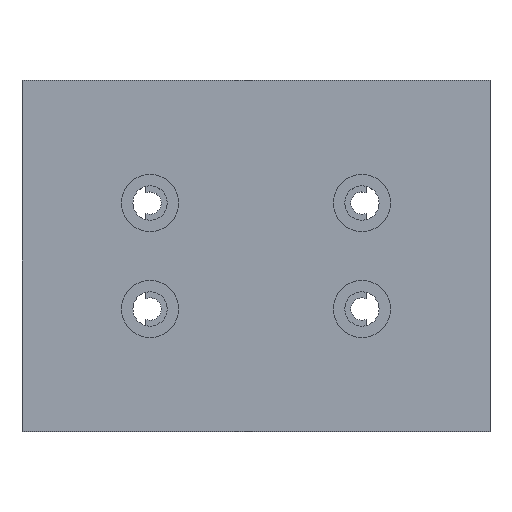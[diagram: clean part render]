
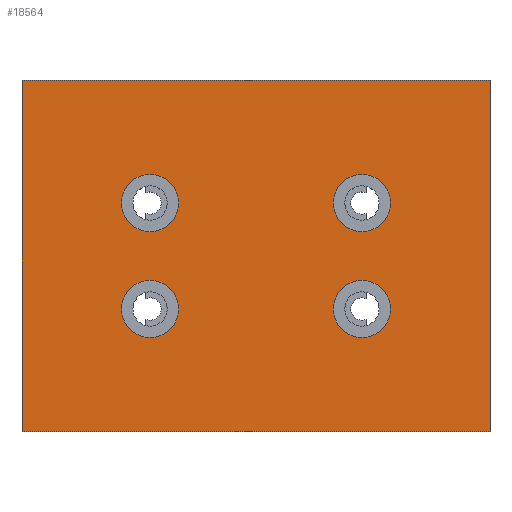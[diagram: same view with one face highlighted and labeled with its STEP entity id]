
A CAD part, top view. The second image highlights one B-rep face of the part: STEP entity #18564.
In plain terms, the highlighted planar face has unit normal (0, 0, 1).
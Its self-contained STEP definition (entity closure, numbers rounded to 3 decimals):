
#708 = CARTESIAN_POINT ( 'NONE',  ( -8.233, -2.781, 1.6 ) ) ;
#2494 = ORIENTED_EDGE ( 'NONE', *, *, #31999, .T. ) ;
#2678 = LINE ( 'NONE', #25647, #15759 ) ;
#3643 = VERTEX_POINT ( 'NONE', #57030 ) ;
#3779 = ORIENTED_EDGE ( 'NONE', *, *, #37785, .T. ) ;
#3899 = CARTESIAN_POINT ( 'NONE',  ( 3.267, 20.219, 1.6 ) ) ;
#3900 = DIRECTION ( 'NONE',  ( 1., 0., 0. ) ) ;
#4657 = VERTEX_POINT ( 'NONE', #50806 ) ;
#5515 = EDGE_CURVE ( 'NONE', #3643, #8435, #2678, .T. ) ;
#7809 = DIRECTION ( 'NONE',  ( 0., 1., 0. ) ) ;
#8435 = VERTEX_POINT ( 'NONE', #31478 ) ;
#8441 = CARTESIAN_POINT ( 'NONE',  ( -8.233, 20.219, 1.6 ) ) ;
#8464 = ORIENTED_EDGE ( 'NONE', *, *, #26342, .F. ) ;
#8549 = CIRCLE ( 'NONE', #62570, 3.1 ) ;
#9158 = VERTEX_POINT ( 'NONE', #62981 ) ;
#9222 = VERTEX_POINT ( 'NONE', #43825 ) ;
#9534 = EDGE_CURVE ( 'NONE', #54559, #9222, #56578, .T. ) ;
#9612 = FACE_BOUND ( 'NONE', #18133, .T. ) ;
#10450 = CARTESIAN_POINT ( 'NONE',  ( 0.167, 20.219, 1.6 ) ) ;
#10500 = AXIS2_PLACEMENT_3D ( 'NONE', #23468, #33349, #3900 ) ;
#11165 = EDGE_CURVE ( 'NONE', #8435, #49415, #17795, .T. ) ;
#11930 = DIRECTION ( 'NONE',  ( 0., 0., -1. ) ) ;
#13492 = CARTESIAN_POINT ( 'NONE',  ( -24.633, -16.681, 1.6 ) ) ;
#13673 = EDGE_LOOP ( 'NONE', ( #2494, #29534 ) ) ;
#15246 = CIRCLE ( 'NONE', #42393, 3.1 ) ;
#15349 = DIRECTION ( 'NONE',  ( 1., 0., 0. ) ) ;
#15359 = CIRCLE ( 'NONE', #56513, 3.1 ) ;
#15759 = VECTOR ( 'NONE', #35567, 1000. ) ;
#16651 = DIRECTION ( 'NONE',  ( 0., 0., -1. ) ) ;
#17388 = EDGE_LOOP ( 'NONE', ( #8464, #51398, #29126, #50207 ) ) ;
#17736 = DIRECTION ( 'NONE',  ( -1., 0., 0. ) ) ;
#17795 = LINE ( 'NONE', #43804, #42449 ) ;
#17861 = EDGE_CURVE ( 'NONE', #49415, #34660, #52009, .T. ) ;
#18133 = EDGE_LOOP ( 'NONE', ( #27639, #34918 ) ) ;
#18176 = CARTESIAN_POINT ( 'NONE',  ( -11.333, 20.219, 1.6 ) ) ;
#18564 = ADVANCED_FACE ( 'NONE', ( #62008, #9612, #22720, #34214, #35783 ), #28376, .T. ) ;
#18588 = DIRECTION ( 'NONE',  ( 0., 0., -1. ) ) ;
#20834 = DIRECTION ( 'NONE',  ( 0., 0., -1. ) ) ;
#22522 = AXIS2_PLACEMENT_3D ( 'NONE', #10450, #44909, #15349 ) ;
#22720 = FACE_BOUND ( 'NONE', #13673, .T. ) ;
#22761 = CARTESIAN_POINT ( 'NONE',  ( 0.167, -2.781, 1.6 ) ) ;
#23140 = DIRECTION ( 'NONE',  ( 1., 0., 0. ) ) ;
#23468 = CARTESIAN_POINT ( 'NONE',  ( -5.583, 8.719, 1.6 ) ) ;
#24295 = VERTEX_POINT ( 'NONE', #708 ) ;
#24308 = EDGE_CURVE ( 'NONE', #37248, #24295, #15359, .T. ) ;
#25647 = CARTESIAN_POINT ( 'NONE',  ( -24.633, 34.119, 1.6 ) ) ;
#26342 = EDGE_CURVE ( 'NONE', #34660, #3643, #59252, .T. ) ;
#27259 = VECTOR ( 'NONE', #17736, 1000. ) ;
#27331 = CARTESIAN_POINT ( 'NONE',  ( -24.633, -16.681, 1.6 ) ) ;
#27631 = DIRECTION ( 'NONE',  ( 1., 0., 0. ) ) ;
#27639 = ORIENTED_EDGE ( 'NONE', *, *, #9534, .T. ) ;
#28376 = PLANE ( 'NONE',  #10500 ) ;
#29126 = ORIENTED_EDGE ( 'NONE', *, *, #11165, .F. ) ;
#29158 = DIRECTION ( 'NONE',  ( 0., 0., -1. ) ) ;
#29534 = ORIENTED_EDGE ( 'NONE', *, *, #24308, .T. ) ;
#29870 = EDGE_LOOP ( 'NONE', ( #47528, #32019 ) ) ;
#31478 = CARTESIAN_POINT ( 'NONE',  ( 13.467, 34.119, 1.6 ) ) ;
#31999 = EDGE_CURVE ( 'NONE', #24295, #37248, #38581, .T. ) ;
#32019 = ORIENTED_EDGE ( 'NONE', *, *, #47201, .T. ) ;
#33031 = VECTOR ( 'NONE', #7809, 1000. ) ;
#33349 = DIRECTION ( 'NONE',  ( 0., 0., 1. ) ) ;
#34214 = FACE_BOUND ( 'NONE', #29870, .T. ) ;
#34660 = VERTEX_POINT ( 'NONE', #13492 ) ;
#34918 = ORIENTED_EDGE ( 'NONE', *, *, #40167, .T. ) ;
#35388 = EDGE_CURVE ( 'NONE', #4657, #9158, #40660, .T. ) ;
#35567 = DIRECTION ( 'NONE',  ( 1., 0., 0. ) ) ;
#35783 = FACE_BOUND ( 'NONE', #40356, .T. ) ;
#36556 = ORIENTED_EDGE ( 'NONE', *, *, #59330, .T. ) ;
#37248 = VERTEX_POINT ( 'NONE', #55947 ) ;
#37495 = VERTEX_POINT ( 'NONE', #57410 ) ;
#37785 = EDGE_CURVE ( 'NONE', #37495, #56769, #48882, .T. ) ;
#38348 = CIRCLE ( 'NONE', #43721, 3.1 ) ;
#38581 = CIRCLE ( 'NONE', #52451, 3.1 ) ;
#40167 = EDGE_CURVE ( 'NONE', #9222, #54559, #15246, .T. ) ;
#40356 = EDGE_LOOP ( 'NONE', ( #36556, #3779 ) ) ;
#40493 = AXIS2_PLACEMENT_3D ( 'NONE', #41384, #11930, #46401 ) ;
#40660 = CIRCLE ( 'NONE', #58732, 3.1 ) ;
#41384 = CARTESIAN_POINT ( 'NONE',  ( -11.333, 20.219, 1.6 ) ) ;
#42393 = AXIS2_PLACEMENT_3D ( 'NONE', #18176, #52659, #23140 ) ;
#42449 = VECTOR ( 'NONE', #48806, 1000. ) ;
#43721 = AXIS2_PLACEMENT_3D ( 'NONE', #58699, #29158, #63648 ) ;
#43804 = CARTESIAN_POINT ( 'NONE',  ( 13.467, 34.119, 1.6 ) ) ;
#43825 = CARTESIAN_POINT ( 'NONE',  ( -14.433, 20.219, 1.6 ) ) ;
#44909 = DIRECTION ( 'NONE',  ( 0., 0., -1. ) ) ;
#46198 = CARTESIAN_POINT ( 'NONE',  ( -11.333, -2.781, 1.6 ) ) ;
#46401 = DIRECTION ( 'NONE',  ( 1., 0., 0. ) ) ;
#47201 = EDGE_CURVE ( 'NONE', #9158, #4657, #8549, .T. ) ;
#47528 = ORIENTED_EDGE ( 'NONE', *, *, #35388, .T. ) ;
#48149 = CARTESIAN_POINT ( 'NONE',  ( -11.333, -2.781, 1.6 ) ) ;
#48606 = CARTESIAN_POINT ( 'NONE',  ( 13.467, -16.681, 1.6 ) ) ;
#48806 = DIRECTION ( 'NONE',  ( 0., -1., 0. ) ) ;
#48882 = CIRCLE ( 'NONE', #22522, 3.1 ) ;
#49415 = VERTEX_POINT ( 'NONE', #48606 ) ;
#50207 = ORIENTED_EDGE ( 'NONE', *, *, #5515, .F. ) ;
#50369 = CARTESIAN_POINT ( 'NONE',  ( 0.167, -2.781, 1.6 ) ) ;
#50806 = CARTESIAN_POINT ( 'NONE',  ( 3.267, -2.781, 1.6 ) ) ;
#51150 = DIRECTION ( 'NONE',  ( 1., 0., 0. ) ) ;
#51398 = ORIENTED_EDGE ( 'NONE', *, *, #17861, .F. ) ;
#52009 = LINE ( 'NONE', #52230, #27259 ) ;
#52230 = CARTESIAN_POINT ( 'NONE',  ( 13.467, -16.681, 1.6 ) ) ;
#52451 = AXIS2_PLACEMENT_3D ( 'NONE', #48149, #18588, #53077 ) ;
#52659 = DIRECTION ( 'NONE',  ( 0., 0., -1. ) ) ;
#53077 = DIRECTION ( 'NONE',  ( 1., 0., 0. ) ) ;
#54559 = VERTEX_POINT ( 'NONE', #8441 ) ;
#55300 = DIRECTION ( 'NONE',  ( 1., 0., 0. ) ) ;
#55947 = CARTESIAN_POINT ( 'NONE',  ( -14.433, -2.781, 1.6 ) ) ;
#56513 = AXIS2_PLACEMENT_3D ( 'NONE', #46198, #16651, #51150 ) ;
#56578 = CIRCLE ( 'NONE', #40493, 3.1 ) ;
#56769 = VERTEX_POINT ( 'NONE', #3899 ) ;
#57030 = CARTESIAN_POINT ( 'NONE',  ( -24.633, 34.119, 1.6 ) ) ;
#57220 = DIRECTION ( 'NONE',  ( 0., 0., -1. ) ) ;
#57410 = CARTESIAN_POINT ( 'NONE',  ( -2.933, 20.219, 1.6 ) ) ;
#58699 = CARTESIAN_POINT ( 'NONE',  ( 0.167, 20.219, 1.6 ) ) ;
#58732 = AXIS2_PLACEMENT_3D ( 'NONE', #22761, #57220, #27631 ) ;
#59252 = LINE ( 'NONE', #27331, #33031 ) ;
#59330 = EDGE_CURVE ( 'NONE', #56769, #37495, #38348, .T. ) ;
#62008 = FACE_OUTER_BOUND ( 'NONE', #17388, .T. ) ;
#62570 = AXIS2_PLACEMENT_3D ( 'NONE', #50369, #20834, #55300 ) ;
#62981 = CARTESIAN_POINT ( 'NONE',  ( -2.933, -2.781, 1.6 ) ) ;
#63648 = DIRECTION ( 'NONE',  ( 1., 0., 0. ) ) ;
